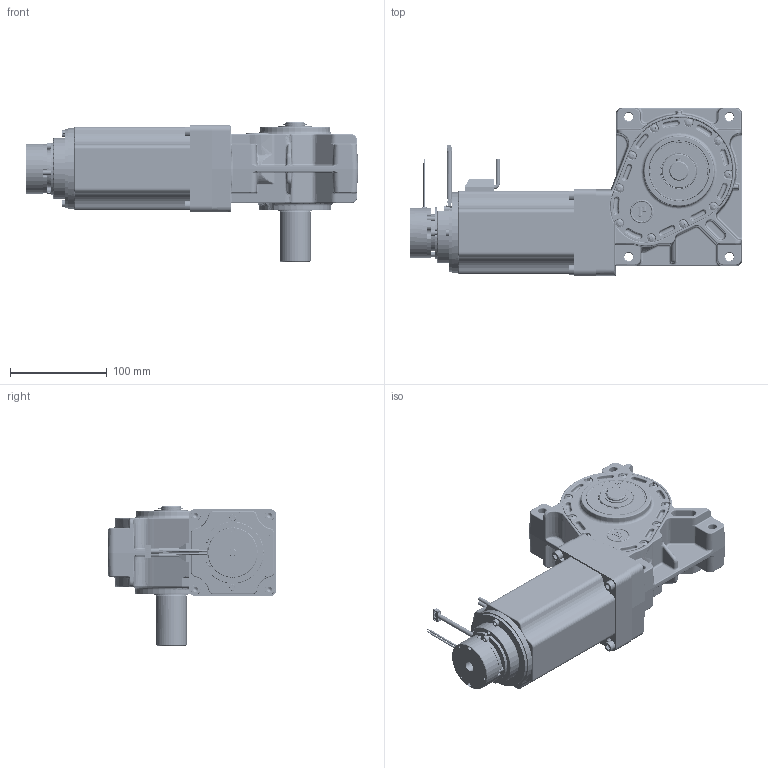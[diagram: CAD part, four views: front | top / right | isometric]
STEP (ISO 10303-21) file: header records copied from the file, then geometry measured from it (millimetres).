
FILE_DESCRIPTION (( 'STEP AP214' ), '1' );
FILE_NAME ('PBL86-80-GB65 - Encoder - Brake - Shaft.STEP', '2024-09-15T10:40:18', ( '' ), ( '' ), 'SwSTEP 2.0', 'SolidWorks 2023', '' );
FILE_SCHEMA (( 'AUTOMOTIVE_DESIGN' ));
Length unit declared in the file: millimetre
Products named in the file (1): PBL86-80-GB65 - Encoder - Brake - Shaft
Bounding box: 342.69 x 174.1 x 145 mm (x, y, z)
Surface area: 445770 mm2 (no closed solid volume)
Topology: 0 solids, 95 shells, 8930 faces, 23310 edges, 14605 vertices
Faces by surface type: cylinder 3192, plane 2697, bspline 1336, cone 813, torus 732, sphere 160
Entity records: 454790 total; most frequent: CARTESIAN_POINT 154081, ORIENTED_EDGE 46010, DIRECTION 37212, EDGE_CURVE 23007, AXIS2_PLACEMENT_3D 15115, VERTEX_POINT 14585, EDGE_LOOP 9554, UNCERTAINTY_MEASURE_WITH_UNIT 8997
